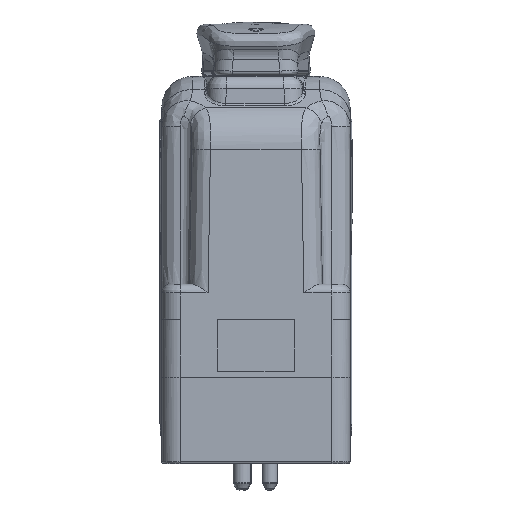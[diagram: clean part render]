
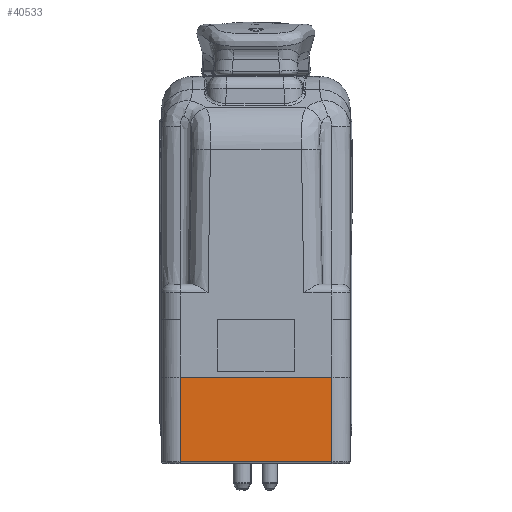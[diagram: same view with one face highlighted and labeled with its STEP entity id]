
A CAD part, front view. The second image highlights one B-rep face of the part: STEP entity #40533.
In plain terms, the highlighted planar face has unit normal (0, -1, -0.006).
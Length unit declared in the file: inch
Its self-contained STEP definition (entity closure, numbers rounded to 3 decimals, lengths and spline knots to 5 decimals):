
#1425 = CARTESIAN_POINT ( 'NONE',  ( -0.773, -1.30512, -0.95012 ) ) ;
#2454 = VERTEX_POINT ( 'NONE', #33081 ) ;
#3100 = EDGE_CURVE ( 'NONE', #71960, #55594, #35872, .T. ) ;
#3634 = CARTESIAN_POINT ( 'NONE',  ( 2.43001, -1.31015, -0.09 ) ) ;
#4729 = ORIENTED_EDGE ( 'NONE', *, *, #3100, .T. ) ;
#9261 = ORIENTED_EDGE ( 'NONE', *, *, #36990, .T. ) ;
#10287 = CARTESIAN_POINT ( 'NONE',  ( 0.773, -1.30512, -0.95012 ) ) ;
#13758 = CARTESIAN_POINT ( 'NONE',  ( 0.773, -1.30512, -0.95012 ) ) ;
#18346 = CARTESIAN_POINT ( 'NONE',  ( -0.773, -1.31015, -0.09 ) ) ;
#19043 = DIRECTION ( 'NONE',  ( 0., -0.006, 1. ) ) ;
#24327 = DIRECTION ( 'NONE',  ( -1., 0., 0. ) ) ;
#26092 = CARTESIAN_POINT ( 'NONE',  ( 0.773, -1.31015, -0.09 ) ) ;
#26328 = AXIS2_PLACEMENT_3D ( 'NONE', #67608, #88045, #39811 ) ;
#27230 = CARTESIAN_POINT ( 'NONE',  ( -0.773, -1.305, -0.97 ) ) ;
#32812 = PLANE ( 'NONE',  #26328 ) ;
#33081 = CARTESIAN_POINT ( 'NONE',  ( 0.773, -1.31015, -0.09 ) ) ;
#33583 = LINE ( 'NONE', #3634, #89316 ) ;
#35872 = LINE ( 'NONE', #27230, #38028 ) ;
#36990 = EDGE_CURVE ( 'NONE', #47675, #2454, #86984, .T. ) ;
#37426 = ORIENTED_EDGE ( 'NONE', *, *, #86803, .T. ) ;
#38028 = VECTOR ( 'NONE', #78963, 39.37008 ) ;
#39811 = DIRECTION ( 'NONE',  ( 0., -0.006, 1. ) ) ;
#40533 = ADVANCED_FACE ( 'NONE', ( #58142 ), #32812, .F. ) ;
#45420 = EDGE_LOOP ( 'NONE', ( #4729, #75541, #9261, #37426 ) ) ;
#47675 = VERTEX_POINT ( 'NONE', #13758 ) ;
#52137 = VECTOR ( 'NONE', #19043, 39.37008 ) ;
#55594 = VERTEX_POINT ( 'NONE', #1425 ) ;
#58142 = FACE_OUTER_BOUND ( 'NONE', #45420, .T. ) ;
#67219 = EDGE_CURVE ( 'NONE', #55594, #47675, #71194, .T. ) ;
#67608 = CARTESIAN_POINT ( 'NONE',  ( 2.43001, -1.31015, -0.09 ) ) ;
#71194 = LINE ( 'NONE', #10287, #87563 ) ;
#71960 = VERTEX_POINT ( 'NONE', #18346 ) ;
#75541 = ORIENTED_EDGE ( 'NONE', *, *, #67219, .T. ) ;
#78963 = DIRECTION ( 'NONE',  ( 0., 0.006, -1. ) ) ;
#86803 = EDGE_CURVE ( 'NONE', #2454, #71960, #33583, .T. ) ;
#86975 = DIRECTION ( 'NONE',  ( 1., 0., 0. ) ) ;
#86984 = LINE ( 'NONE', #26092, #52137 ) ;
#87563 = VECTOR ( 'NONE', #86975, 39.37008 ) ;
#88045 = DIRECTION ( 'NONE',  ( 0., 1., 0.006 ) ) ;
#89316 = VECTOR ( 'NONE', #24327, 39.37008 ) ;
